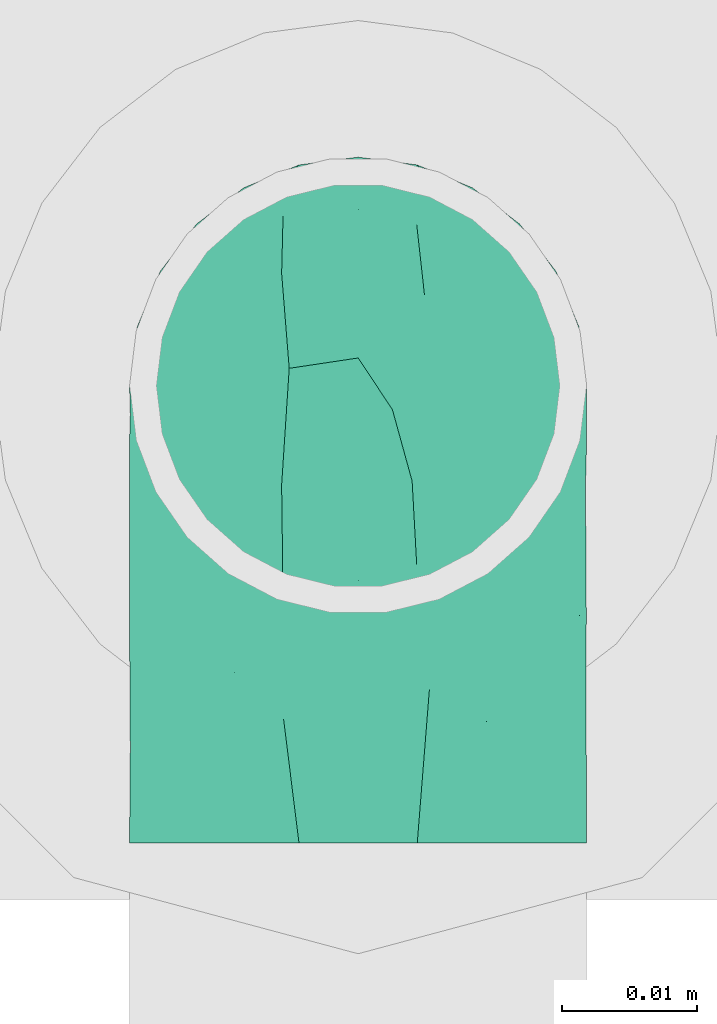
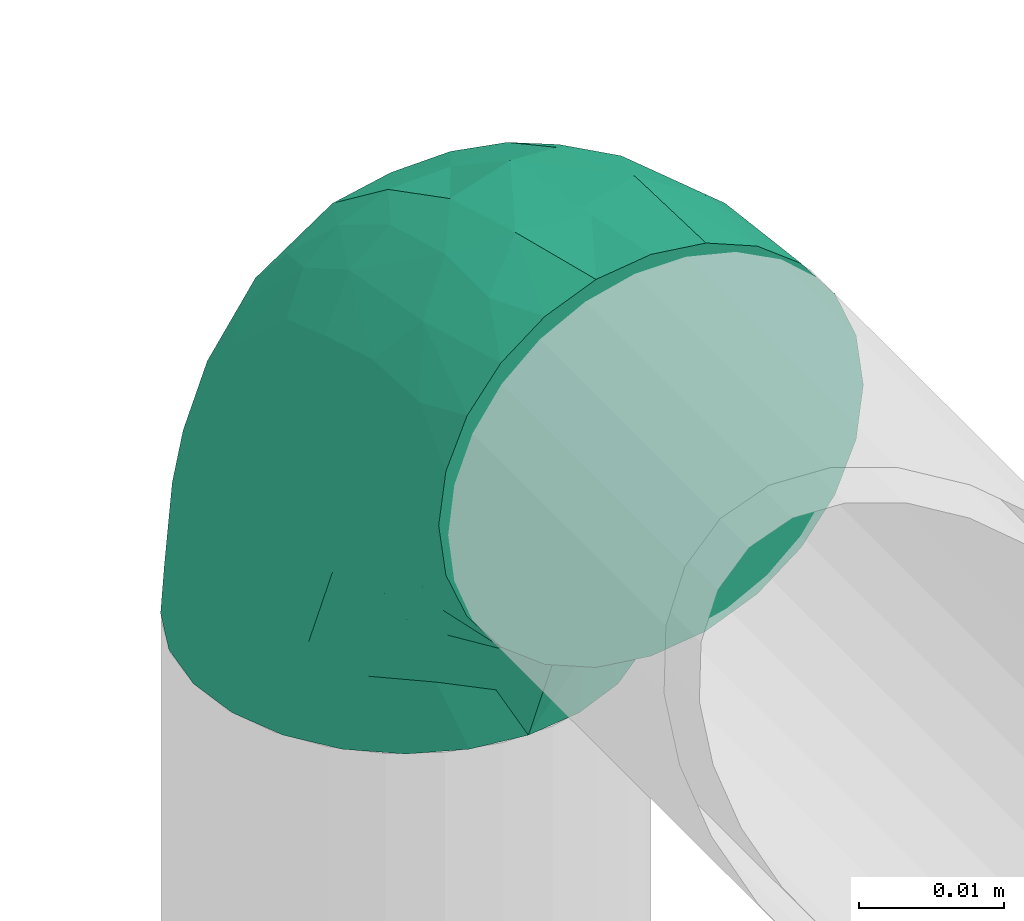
# One storey, part 45 of 45: 1 flow fitting.
"""IFC2X3 building model written with IfcOpenShell, lengths in millimetres."""

from ifc_helpers import new_model, entity, si_unit, converted_unit, derived_unit, direction, frame, origin_with_axes, place, context, subcontext, project, spatial, open_shell, surface_model, source, transform, mapped, type_object, element, save


model = new_model("IFC2X3")

# Units and contexts
model_context = context("Model", 3, precision=0.01, world=frame((0.0, 4.29681676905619e-09, 0.0)), true_north=direction((4.01073788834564e-13, 1.0)))
plan_context = context("Plan", 3, precision=0.01, world=frame((0.0, 4.29681676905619e-09, 0.0)), true_north=direction((4.01073788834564e-13, 1.0)))
body_context = subcontext(model_context, "Body", "Model", "MODEL_VIEW")
ifc_project = project(units=[converted_unit("PLANEANGLEUNIT", "DEGREE", entity("IfcPositiveLengthMeasure", 0.0174532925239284), si_unit("PLANEANGLEUNIT", "RADIAN"), dimensions=[0, 0, 0, 0, 0, 0, 0]), si_unit("AREAUNIT", "SQUARE_METRE"), si_unit("LENGTHUNIT", "METRE", prefix="MILLI"), si_unit("MASSUNIT", "GRAM", prefix="KILO"), si_unit("POWERUNIT", "WATT"), si_unit("PRESSUREUNIT", "PASCAL", prefix="KILO"), si_unit("FORCEUNIT", "NEWTON", prefix="KILO"), si_unit("ELECTRICVOLTAGEUNIT", "VOLT"), si_unit("ELECTRICCURRENTUNIT", "AMPERE"), si_unit("THERMODYNAMICTEMPERATUREUNIT", "DEGREE_CELSIUS"), si_unit("TIMEUNIT", "SECOND"), si_unit("VOLUMEUNIT", "CUBIC_METRE"), derived_unit("LINEARVELOCITYUNIT", [(si_unit("LENGTHUNIT", "METRE"), 1), (si_unit("TIMEUNIT", "SECOND"), -1)]), derived_unit("VOLUMETRICFLOWRATEUNIT", [(si_unit("VOLUMEUNIT", "CUBIC_METRE"), 1), (si_unit("TIMEUNIT", "SECOND"), -1)]), derived_unit("THERMALTRANSMITTANCEUNIT", [(si_unit("POWERUNIT", "WATT"), 1), (si_unit("THERMODYNAMICTEMPERATUREUNIT", "KELVIN"), -1), (si_unit("AREAUNIT", "SQUARE_METRE"), -1)]), derived_unit("SOUNDPRESSUREUNIT", [(si_unit("PRESSUREUNIT", "PASCAL"), 1)])], contexts=[model_context, plan_context])

# Site, building, storey
site_placement = place(None, frame((0.0, -4.29681676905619e-09, 0.0), z_axis=(0.0, 0.0, 1.0), x_axis=(1.0, 0.0, 0.0)))
site = spatial("IfcSite", under=ifc_project, at=site_placement, CompositionType="ELEMENT")
building_placement = place(site_placement, frame((0.0, 4.29681676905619e-09, 0.0), z_axis=(0.0, 0.0, 1.0), x_axis=(1.0, 0.0, 0.0)))
building = spatial("IfcBuilding", under=site, at=building_placement, Name="mc-building", CompositionType="ELEMENT")
storey_placement = place(building_placement, frame((0.0, 0.0, 210200.0), z_axis=(0.0, 0.0, 1.0), x_axis=(1.0, 0.0, 0.0)))
storey = spatial("IfcBuildingStorey", under=building, at=storey_placement, Name="Nivå F - 0,7 m", CompositionType="ELEMENT", Elevation=210200.0)

# Flow fitting
pipe_fitting_type = type_object("IfcPipeFittingType", Name="magi_pipe_fe_elbow_short_001", PredefinedType="BEND")
shared_shape = source(origin_with_axes(), body_context, "Body", "SurfaceModel", [
    surface_model("IfcShellBasedSurfaceModel", [(-33.801, 0.0, -16.9), (-33.801, -16.9, 0.0), (-33.801, 4.37404, -16.32415), (-33.801, 8.45, -14.63583), (-33.801, 16.32415, -4.37404), (-33.801, 14.63583, -8.45), (-33.801, 11.9501, -11.9501), (-33.801, -11.9501, -11.9501), (-33.801, -14.63583, -8.45), (-33.801, -8.45, -14.63583), (-33.801, -4.37404, -16.32415), (-33.801, -16.32415, -4.37404), (-33.801, 16.32415, 4.37404), (-33.801, 4.37404, 16.32415), (-33.801, 14.63583, 8.45), (-33.801, 8.45, 14.63583), (-33.801, 11.9501, 11.9501), (-33.801, -16.32415, 4.37404), (-33.801, -11.9501, 11.9501), (-33.801, -8.45, 14.63583), (-33.801, -14.63583, 8.45), (-33.801, -4.37404, 16.32415), (-33.801, 0.0, 16.9), (-33.801, 16.9, 0.0), (-0.001, 33.801, -16.9), (16.32315, 33.80148, 4.37404), (16.899, 33.8015, 0.0), (-8.451, 33.80075, -14.63583), (-16.32514, 33.80052, 4.37404), (-4.37504, 33.80087, -16.32415), (-14.63683, 33.80056, -8.45), (-16.32514, 33.80052, -4.37404), (-11.9511, 33.80064, -11.9501), (4.37304, 33.80113, -16.32415), (11.94911, 33.80135, -11.9501), (8.449, 33.80125, -14.63583), (14.63483, 33.80143, -8.45), (16.32315, 33.80148, -4.37404), (-8.451, 33.80075, 14.63583), (-14.63683, 33.80056, 8.45), (-11.9511, 33.80064, 11.9501), (-4.37504, 33.80087, 16.32415), (14.63483, 33.80143, 8.45), (4.37304, 33.80113, 16.32415), (11.94911, 33.80135, 11.9501), (8.449, 33.80125, 14.63583), (-0.001, 33.801, 16.9), (-16.901, 33.8005, 0.0), (-24.79494, -13.12947, 9.4872), (-22.19389, -9.7502, 12.59314), (-24.0998, -14.97027, 0.0), (-14.94043, -10.76261, 8.52968), (-22.46197, -14.75052, 5.27075), (14.74986, 22.46241, 5.27075), (11.92474, 13.24033, 4.33238), (13.04012, 14.39899, 0.0), (7.71347, 13.68966, 11.55889), (9.74955, 22.19418, 12.59314), (4.10119, 13.0579, 14.04015), (-24.84106, -6.39064, 15.2048), (-25.81862, -2.23879, 16.61096), (-23.66636, 2.59055, 16.8712), (-26.50512, 14.06513, 11.08154), (-24.21336, 17.66372, 7.72661), (-29.58603, 15.86959, 7.00285), (-6.17438, -7.54517, 0.0), (-13.23998, -11.92514, 4.33238), (-14.3986, -13.04055, 0.0), (-17.81494, 18.8741, 11.97108), (-6.30932, 29.15205, 15.82988), (-2.31696, 25.28086, 16.85849), (-29.24006, 10.23436, 13.77054), (-1.45531, -2.85701, 7.61443), (-0.28355, 0.34914, 10.09482), (-5.74543, -4.04695, 10.41202), (-4.41189, 11.31984, 16.59407), (-8.39795, 3.10038, 15.78113), (-1.72717, 9.13101, 15.53089), (-17.39989, 24.75374, 7.64982), (-26.19335, 20.05125, 0.0), (-28.14612, 17.2966, 4.25854), (-26.05243, 6.62809, 15.96448), (-5.87404, 16.61989, 16.86969), (-12.51868, 12.51831, 16.48939), (-10.06358, 7.38539, 16.81293), (-3.01929, 3.0192, 13.8171), (-13.05778, -4.10157, 14.04015), (-16.82622, -0.15158, 16.38036), (10.76217, 14.94075, 8.52968), (13.12874, 24.79533, 9.4872), (6.38991, 24.84125, 15.2048), (2.23802, 25.81868, 16.61096), (-13.68943, -7.71387, 11.55889), (14.96956, 24.10024, 0.0), (-7.30966, 22.90046, 16.0949), (-10.68035, 26.17475, 14.00801), (-12.78372, 18.26958, 15.06065), (-13.8863, 22.45283, 12.93245), (-18.05021, 15.1652, 14.04434), (-23.11746, 20.08187, 4.02987), (-21.85072, 21.85007, 0.0), (-18.55908, 25.48292, 3.93068), (-13.95221, 26.94789, 11.0329), (-18.57175, 7.23918, 16.59757), (-16.58399, 4.14127, 16.89278), (-17.96726, 11.46732, 15.63153), (-9.84522, 17.54343, 16.18939), (0.15109, 16.82623, 16.38036), (-23.27278, 11.47209, 14.23158), (3.84787, 5.87078, 10.70491), (-8.02216, -7.5442, 7.93261), (1.0029, -2.19491, 4.57348), (5.13104, 3.01033, 5.90248), (5.2423, 1.75632, 2.53251), (8.70412, 7.05087, 3.99296), (-20.05203, 26.19276, 0.0), (8.48363, 8.76715, 7.0942), (-4.55603, -6.72085, 4.90656), (2.04985, -2.04978, 0.0), (7.54498, 6.1746, 0.0), (-26.75484, 2.1369, -16.845), (-14.62075, 24.73836, -11.2774), (-28.45369, -13.45335, -9.81894), (-26.00563, 6.63554, -15.96646), (-23.06814, 20.04582, -4.26203), (-13.807, -4.26476, -14.17876), (-14.6757, -0.21066, -16.07387), (-6.79043, -0.28248, -13.84764), (-24.53665, 11.081, -14.13419), (-26.72142, 14.00838, -11.05778), (10.09599, 24.45114, -12.75974), (5.83173, 21.40325, -15.03045), (6.66166, 28.54352, -15.38092), (-20.38257, 15.48724, -12.74596), (12.53205, 21.23568, -9.15361), (12.54449, 15.67641, -5.54874), (9.75194, 12.89417, -8.66332), (-15.6526, 19.64238, -13.01332), (-12.03588, 20.6654, -14.67671), (-15.61973, 15.61927, -14.83884), (-25.56652, -15.26203, 0.0), (-24.65548, -15.12934, -5.50952), (13.45251, 28.45408, -9.81894), (15.12861, 24.65592, -5.50952), (-7.35549, -8.31018, -5.65565), (-15.67604, -12.54496, -5.54874), (-24.45085, -10.09671, -12.75974), (0.16513, 0.41384, -9.71717), (-5.70735, -5.33035, -8.89308), (-5.13836, -2.37105, -11.53555), (-21.23531, -12.53268, -9.15361), (0.71108, 7.93935, -14.09378), (0.21022, 14.67571, -16.07387), (3.49242, 14.42861, -14.76379), (-24.90007, -2.13089, -16.591), (-28.54332, -6.6625, -15.38092), (-18.44474, -7.71648, -13.26965), (2.13016, 24.90013, -16.591), (-28.64434, 17.44414, -2.89322), (1.70037, -1.28604, -5.09498), (-16.57153, 26.81974, -7.36601), (-17.69137, 27.42673, -3.76407), (-12.89389, -9.75232, -8.66332), (-5.96661, 5.96643, -15.9581), (-20.53801, 20.0935, -8.28989), (-2.13769, 26.75478, -16.845), (-6.89945, 24.5885, -16.02579), (-10.60817, 26.53222, -13.98045), (-21.40308, -5.83237, -15.03045), (2.93147, 5.8971, -11.55923), (6.8935, 12.61942, -11.82229), (5.58039, 5.95449, -8.79462), (-3.99573, 18.61859, -16.89635), (8.30996, 7.35574, -5.65565), (-9.13886, 9.86186, -16.8904), (-10.00036, 16.02178, -16.39699), (-16.68606, 9.78056, -16.34204), (-27.02008, 16.61162, -7.12977), (15.26127, 25.56697, 0.0), (-18.61871, 3.99518, -16.89635), (-19.37586, 27.82528, 0.0), (-12.61921, -6.89388, -11.82229), (-18.84775, 19.14044, -10.96548)], [open_shell([[[0, 1, 2]], [[3, 2, 4]], [[3, 4, 5]], [[6, 3, 5]], [[4, 2, 1]], [[7, 8, 9]], [[0, 10, 9]], [[11, 1, 8]], [[9, 8, 1]], [[9, 1, 0]], [[1, 12, 4]], [[13, 12, 1]], [[14, 12, 13]], [[14, 13, 15]], [[16, 14, 15]], [[17, 13, 1]], [[18, 19, 20]], [[17, 20, 19]], [[21, 22, 19]], [[13, 17, 19]], [[19, 22, 13]], [[23, 4, 12]], [[24, 25, 26]], [[27, 28, 29]], [[30, 31, 27]], [[30, 27, 32]], [[29, 25, 24]], [[33, 34, 35]], [[34, 33, 36]], [[33, 37, 36]], [[37, 33, 26]], [[33, 24, 26]], [[28, 27, 31]], [[25, 29, 28]], [[38, 28, 39]], [[28, 38, 25]], [[38, 39, 40]], [[41, 25, 38]], [[42, 43, 44]], [[43, 42, 25]], [[44, 43, 45]], [[43, 25, 46]], [[25, 41, 46]], [[28, 31, 47]], [[18, 48, 49]], [[17, 1, 50]], [[51, 48, 52]], [[53, 54, 55]], [[48, 18, 20]], [[17, 52, 20]], [[56, 57, 58]], [[49, 19, 18]], [[49, 59, 19]], [[22, 60, 61]], [[62, 63, 64]], [[65, 66, 67]], [[57, 44, 45]], [[62, 68, 63]], [[41, 69, 70]], [[15, 71, 16]], [[21, 60, 22]], [[72, 73, 74]], [[75, 76, 77]], [[16, 62, 14]], [[39, 28, 78]], [[79, 23, 80]], [[64, 12, 14]], [[22, 61, 13]], [[13, 81, 15]], [[82, 83, 84]], [[74, 85, 86]], [[59, 86, 87]], [[88, 89, 57]], [[90, 45, 43]], [[42, 53, 25]], [[43, 46, 91]], [[54, 53, 88]], [[42, 89, 53]], [[92, 86, 49]], [[89, 42, 44]], [[19, 59, 21]], [[53, 55, 93]], [[93, 25, 53]], [[66, 52, 67]], [[94, 82, 70]], [[95, 96, 94]], [[97, 98, 96]], [[79, 99, 100]], [[38, 40, 95]], [[101, 100, 99]], [[68, 78, 63]], [[41, 38, 69]], [[23, 12, 80]], [[95, 94, 69]], [[78, 101, 99]], [[40, 102, 95]], [[70, 46, 41]], [[97, 95, 102]], [[17, 50, 52]], [[90, 57, 45]], [[57, 90, 58]], [[81, 13, 61]], [[103, 104, 84]], [[105, 81, 103]], [[40, 39, 102]], [[106, 96, 83]], [[94, 106, 82]], [[91, 70, 107]], [[71, 62, 16]], [[62, 108, 98]], [[86, 59, 49]], [[67, 52, 50]], [[60, 59, 87]], [[92, 49, 51]], [[86, 85, 76]], [[91, 90, 43]], [[26, 25, 93]], [[107, 77, 58]], [[107, 58, 90]], [[58, 85, 109]], [[110, 74, 92]], [[72, 74, 110]], [[66, 51, 52]], [[72, 111, 112]], [[113, 114, 112]], [[56, 88, 57]], [[52, 48, 20]], [[49, 48, 51]], [[57, 89, 44]], [[53, 89, 88]], [[103, 81, 61]], [[71, 81, 108]], [[12, 64, 80]], [[63, 78, 99]], [[47, 115, 101]], [[101, 115, 100]], [[39, 78, 102]], [[68, 102, 78]], [[97, 96, 95]], [[105, 98, 108]], [[103, 84, 83]], [[107, 70, 82]], [[76, 84, 87]], [[82, 84, 75]], [[70, 91, 46]], [[90, 91, 107]], [[59, 60, 21]], [[61, 60, 87]], [[73, 85, 74]], [[109, 112, 116]], [[103, 61, 104]], [[105, 103, 83]], [[96, 105, 83]], [[81, 105, 108]], [[96, 98, 105]], [[62, 98, 68]], [[61, 87, 104]], [[87, 84, 104]], [[86, 76, 87]], [[77, 76, 85]], [[58, 77, 85]], [[75, 77, 107]], [[82, 75, 107]], [[76, 75, 84]], [[81, 71, 15]], [[62, 71, 108]], [[95, 69, 38]], [[70, 69, 94]], [[62, 64, 14]], [[80, 63, 99]], [[63, 80, 64]], [[80, 99, 79]], [[66, 65, 117]], [[110, 66, 117]], [[112, 114, 116]], [[118, 117, 65]], [[110, 92, 51]], [[112, 111, 113]], [[119, 55, 54]], [[74, 86, 92]], [[58, 109, 56]], [[116, 56, 109]], [[66, 110, 51]], [[72, 110, 117]], [[111, 72, 117]], [[73, 112, 109]], [[117, 118, 111]], [[113, 111, 118]], [[118, 119, 113]], [[114, 119, 54]], [[119, 114, 113]], [[116, 54, 88]], [[54, 116, 114]], [[116, 88, 56]], [[112, 73, 72]], [[85, 73, 109]], [[78, 28, 101]], [[47, 101, 28]], [[102, 68, 97]], [[97, 68, 98]], [[82, 106, 83]], [[94, 96, 106]], [[2, 120, 0]], [[30, 32, 121]], [[7, 122, 8]], [[3, 123, 2]], [[100, 124, 79]], [[125, 126, 127]], [[128, 6, 129]], [[130, 131, 132]], [[128, 129, 133]], [[134, 135, 136]], [[137, 138, 139]], [[128, 3, 6]], [[67, 140, 141]], [[134, 142, 143]], [[141, 11, 8]], [[144, 65, 145]], [[146, 7, 9]], [[147, 148, 149]], [[145, 141, 150]], [[151, 152, 153]], [[154, 10, 0]], [[9, 155, 146]], [[150, 146, 156]], [[155, 9, 10]], [[143, 135, 134]], [[33, 157, 24]], [[23, 79, 158]], [[148, 159, 144]], [[160, 161, 31]], [[145, 162, 144]], [[163, 152, 151]], [[31, 30, 160]], [[121, 164, 160]], [[35, 34, 130]], [[24, 165, 29]], [[29, 165, 166]], [[142, 34, 36]], [[32, 27, 167]], [[124, 161, 164]], [[157, 33, 132]], [[155, 154, 168]], [[123, 3, 128]], [[169, 170, 171]], [[172, 157, 152]], [[29, 166, 27]], [[132, 33, 35]], [[142, 130, 34]], [[168, 154, 126]], [[136, 135, 173]], [[133, 137, 139]], [[6, 5, 129]], [[170, 131, 130]], [[36, 37, 143]], [[172, 174, 175]], [[176, 123, 128]], [[158, 177, 4]], [[135, 55, 119]], [[167, 27, 166]], [[175, 166, 172]], [[137, 167, 138]], [[122, 141, 8]], [[140, 1, 11]], [[37, 26, 178]], [[170, 130, 134]], [[152, 157, 131]], [[165, 157, 172]], [[153, 170, 151]], [[152, 163, 174]], [[168, 125, 156]], [[122, 146, 150]], [[120, 154, 0]], [[179, 174, 126]], [[179, 126, 154]], [[126, 163, 127]], [[162, 145, 150]], [[140, 11, 141]], [[37, 178, 143]], [[55, 143, 178]], [[177, 129, 5]], [[128, 133, 139]], [[176, 128, 139]], [[120, 123, 179]], [[121, 160, 30]], [[161, 100, 180]], [[166, 175, 138]], [[121, 32, 167]], [[161, 47, 31]], [[79, 124, 158]], [[124, 164, 177]], [[161, 124, 100]], [[136, 171, 170]], [[127, 163, 151]], [[147, 171, 159]], [[148, 144, 162]], [[127, 151, 169]], [[127, 181, 125]], [[129, 177, 164]], [[5, 4, 177]], [[159, 65, 144]], [[67, 141, 145]], [[143, 55, 135]], [[135, 119, 173]], [[123, 120, 2]], [[154, 120, 179]], [[157, 165, 24]], [[166, 165, 172]], [[172, 152, 174]], [[176, 139, 175]], [[126, 174, 163]], [[176, 174, 179]], [[174, 176, 175]], [[123, 176, 179]], [[150, 181, 162]], [[127, 149, 181]], [[181, 148, 162]], [[159, 148, 147]], [[171, 136, 173]], [[170, 134, 136]], [[159, 171, 173]], [[171, 147, 169]], [[169, 147, 149]], [[151, 170, 169]], [[164, 182, 129]], [[182, 121, 137]], [[181, 149, 148]], [[169, 149, 127]], [[182, 137, 133]], [[167, 137, 121]], [[166, 138, 167]], [[175, 139, 138]], [[129, 182, 133]], [[121, 182, 164]], [[161, 160, 164]], [[47, 161, 180]], [[177, 158, 124]], [[23, 158, 4]], [[130, 132, 35]], [[157, 132, 131]], [[143, 142, 36]], [[130, 142, 134]], [[154, 155, 10]], [[146, 155, 168]], [[146, 122, 7]], [[141, 122, 150]], [[152, 131, 153]], [[159, 119, 118]], [[67, 145, 65]], [[170, 153, 131]], [[119, 159, 173]], [[159, 118, 65]], [[156, 125, 181]], [[126, 125, 168]], [[150, 156, 181]], [[168, 156, 146]]])]),
])
flow_fitting_placement = place(storey_placement, frame((347410.95175, 460120.00018, 2665.79999999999), z_axis=(1.0, 0.0, 0.0), x_axis=(0.0, 0.0, 1.0)))
element("IfcFlowFitting", 1, at=flow_fitting_placement, inside=storey, type_object=pipe_fitting_type, Name="magi_pipe_fe_elbow_short_001", context=body_context, shape_type="MappedRepresentation", body=[
    mapped(shared_shape, transform((0.0, 0.0, 0.0), scale=1.0)),
])

save(model, "model.ifc")
